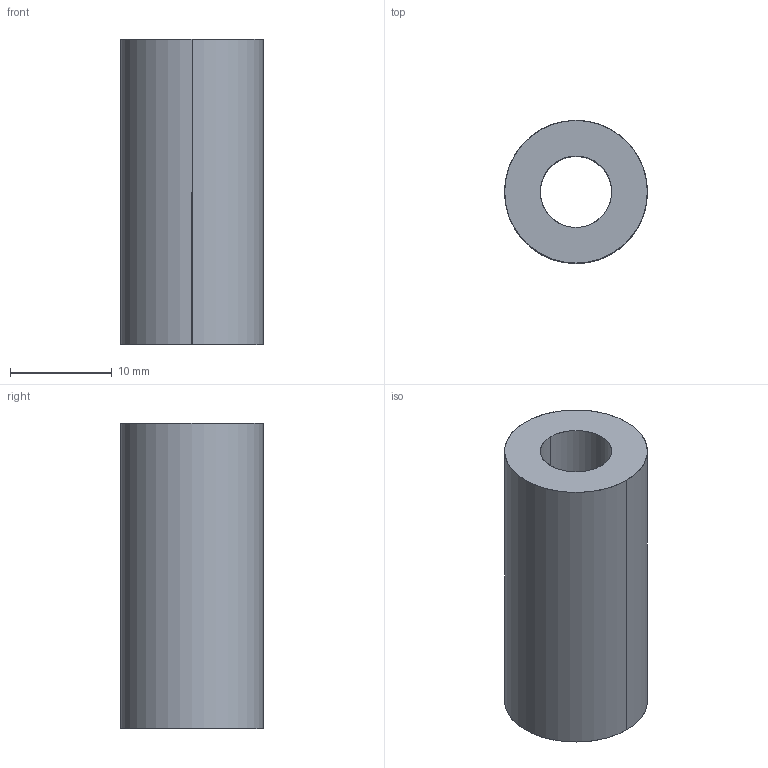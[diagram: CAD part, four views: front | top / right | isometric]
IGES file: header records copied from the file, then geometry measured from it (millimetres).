
Global section: file name: E:\UnigraphicsGraphicData\MISUMI_PRESS-PARTS\IGES\3d_swz14-30_00774_r00.igs; native system: NX V5.0; preprocessor: UGS NX IGES V5.0; author: MISUMI; date: 20110105.163303; units: millimetre
Bounding box: 14 x 14 x 30 mm (x, y, z)
Surface area: 2210.9 mm2 (no closed solid volume)
Topology: 0 solids, 0 shells, 6 faces, 48 edges, 48 vertices
Faces by surface type: bspline 6
